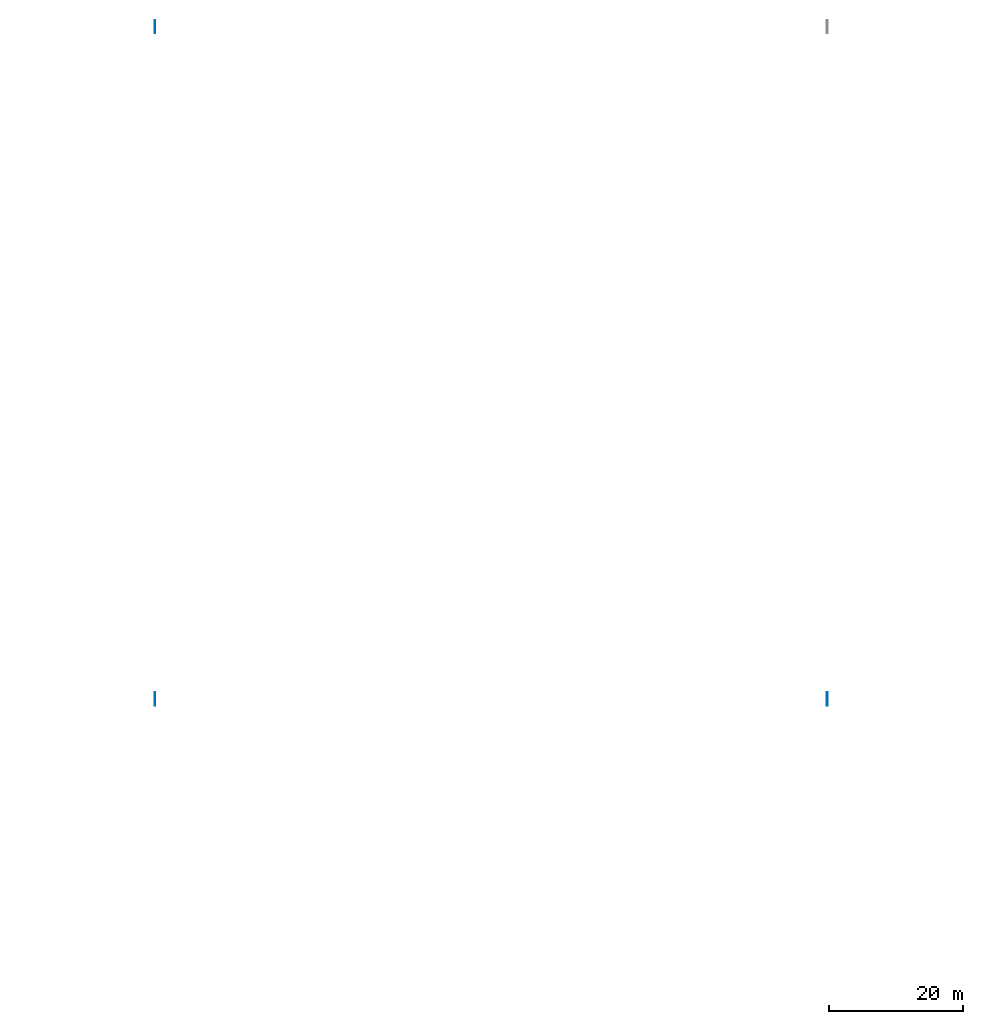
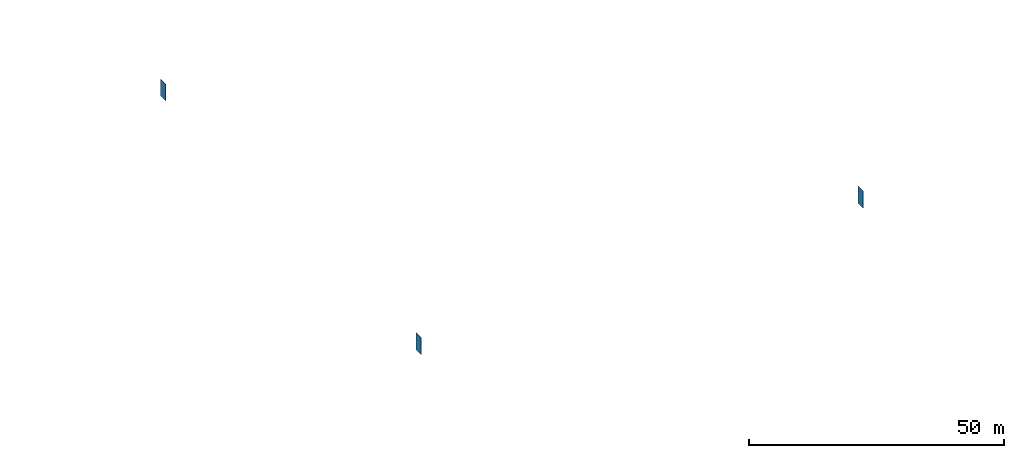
# One storey, part 134 of 164: 3 walls.
"""IFC2X3 building model written with IfcOpenShell, lengths in millimetres."""

import ifcopenshell
import ifcopenshell.guid

model = None  # the IFC model being written
_history = None  # IfcOwnerHistory: only IFC2X3 demands one
_inside = {}  # id of a spatial element -> (the spatial element, [elements in it])
_under = {}  # id of a project, library or spatial element -> (it, [spatial elements below it])
_declared = {}  # id of a project -> (the project, [libraries it declares])
_typed = {}  # id of a type object -> (the type object, [elements of that type])
_made_of = {}  # id of a material, layer set ... -> (it, [elements and type objects made of it])


def new_model(schema):
    """Start an empty IFC model of exactly this schema.

    Asked for "IFC4X3", IfcOpenShell would pick the latest addendum, in which some entities
    have other attributes; the version numbers below select the first issue.
    IFC2X3 requires an IfcOwnerHistory on every rooted entity: one is made here for all.
    """
    global model, _history
    if schema == "IFC4X3":
        model = ifcopenshell.file(schema_version=(4, 3, 0, 0))
    else:
        model = ifcopenshell.file(schema=schema)
    _inside.clear()
    _under.clear()
    _declared.clear()
    _typed.clear()
    _made_of.clear()
    _history = None
    if model.schema == "IFC2X3":
        org = make("IfcOrganization", Name="unknown")
        user = make(
            "IfcPersonAndOrganization",
            ThePerson=make("IfcPerson", FamilyName="unknown"),
            TheOrganization=org,
        )
        app = make(
            "IfcApplication",
            ApplicationDeveloper=org,
            Version="unknown",
            ApplicationFullName="unknown",
            ApplicationIdentifier="unknown",
        )
        _history = make(
            "IfcOwnerHistory",
            OwningUser=user,
            OwningApplication=app,
            ChangeAction="ADDED",
            CreationDate=0,
        )
    return model


def make(cls, **values):
    """One entity of the class cls with the attributes given. An attribute that is None is left unset."""
    return model.create_entity(
        cls, **{name: value for name, value in values.items() if value is not None}
    )


def entity(cls, *values):
    """Any entity or typed value of the class cls, its attributes in the order of the schema. None: left unset."""
    e = model.create_entity(cls)
    for i, value in enumerate(values):
        if value is not None:
            e[i] = value
    return e


def rooted(cls, **values):
    """An entity with a GlobalId (a new one), such as an element, a storey or a relation."""
    return make(cls, GlobalId=ifcopenshell.guid.new(), OwnerHistory=_history, **values)


def si_unit(unit_type, name, prefix=None):
    """IfcSIUnit, for example si_unit("LENGTHUNIT", "METRE", prefix="MILLI")."""
    return make("IfcSIUnit", UnitType=unit_type, Prefix=prefix, Name=name)


def converted_unit(unit_type, name, factor, base, dimensions=None, offset=None):
    """IfcConversionBasedUnit, such as the inch: factor (a typed value) times the base unit."""
    return make(
        "IfcConversionBasedUnit"
        if offset is None
        else "IfcConversionBasedUnitWithOffset",
        ConversionOffset=offset,
        Dimensions=None
        if dimensions is None
        else entity("IfcDimensionalExponents", *dimensions),
        UnitType=unit_type,
        Name=name,
        ConversionFactor=make(
            "IfcMeasureWithUnit", ValueComponent=factor, UnitComponent=base
        ),
    )


def derived_unit(unit_type, elements):
    """IfcDerivedUnit: a product of units, each with its exponent."""
    return make(
        "IfcDerivedUnit",
        Elements=[
            make("IfcDerivedUnitElement", Unit=unit, Exponent=power)
            for unit, power in elements
        ],
        UnitType=unit_type,
    )


def assignment(units):
    """IfcUnitAssignment: the units of a project."""
    return None if units is None else make("IfcUnitAssignment", Units=units)


def point(xyz):
    """IfcCartesianPoint."""
    return None if xyz is None else make("IfcCartesianPoint", Coordinates=xyz)


def direction(xyz):
    """IfcDirection."""
    return None if xyz is None else make("IfcDirection", DirectionRatios=xyz)


def frame(location, z_axis=None, x_axis=None):
    """IfcAxis2Placement3D, a coordinate frame: its origin and axes. An axis left out is left unset."""
    return make(
        "IfcAxis2Placement3D",
        Location=point(location),
        Axis=direction(z_axis),
        RefDirection=direction(x_axis),
    )


def frame_2d(location, x_axis=None):
    """IfcAxis2Placement2D, a coordinate frame in the plane: its origin and x axis."""
    return make(
        "IfcAxis2Placement2D", Location=point(location), RefDirection=direction(x_axis)
    )


def origin():
    """The frame at (0, 0, 0) with its axes left unset."""
    return frame((0.0, 0.0, 0.0))


def place(relative_to, where):
    """IfcLocalPlacement: puts the frame where relative to a parent placement (None: the world)."""
    return make(
        "IfcLocalPlacement", PlacementRelTo=relative_to, RelativePlacement=where
    )


def context(
    kind, dimensions, precision=None, world=None, true_north=None, identifier=None
):
    """IfcGeometricRepresentationContext, for example the 3D "Model" context."""
    return make(
        "IfcGeometricRepresentationContext",
        ContextIdentifier=identifier,
        ContextType=kind,
        CoordinateSpaceDimension=dimensions,
        Precision=precision,
        WorldCoordinateSystem=world,
        TrueNorth=true_north,
    )


def subcontext(parent, identifier, kind, view, scale=None):
    """IfcGeometricRepresentationSubContext, for example "Body" below "Model"."""
    return make(
        "IfcGeometricRepresentationSubContext",
        ContextIdentifier=identifier,
        ContextType=kind,
        ParentContext=parent,
        TargetScale=scale,
        TargetView=view,
    )


def project(units=None, contexts=None):
    """IfcProject with its units and contexts."""
    return rooted(
        "IfcProject",
        Name="project",
        RepresentationContexts=contexts,
        UnitsInContext=assignment(units),
    )


def spatial(cls, under=None, at=None, **own):
    """A site, building, storey or space (cls), placed at a placement, below another one or the project."""
    s = rooted(cls, ObjectPlacement=at, **own)
    if under is not None:
        _under.setdefault(under.id(), (under, []))[1].append(s)
    return s


def profile(cls, at=None, kind="AREA", **sizes):
    """A parametric profile (cls). Its sizes go by their IFC names, for example OverallWidth=200.0."""
    return make(cls, ProfileType=kind, Position=at, **sizes)


def rectangle(**sizes):
    """IfcRectangleProfileDef."""
    return profile("IfcRectangleProfileDef", **sizes)


def extrude(swept, where, along, depth):
    """IfcExtrudedAreaSolid: the profile swept, set in the frame where, extruded along a direction by depth."""
    return make(
        "IfcExtrudedAreaSolid",
        SweptArea=swept,
        Position=where,
        ExtrudedDirection=direction(along),
        Depth=depth,
    )


def shape(context_of_items, identifier, shape_type, items):
    """IfcShapeRepresentation: the items that make up one representation, for example the "Body"."""
    return make(
        "IfcShapeRepresentation",
        ContextOfItems=context_of_items,
        RepresentationIdentifier=identifier,
        RepresentationType=shape_type,
        Items=items,
    )


def material(Name=None, Category=None):
    """IfcMaterial."""
    return make("IfcMaterial", Name=Name, Category=Category)


def layer(
    of_material, thickness, ventilated=None, Name=None, Category=None, Priority=None
):
    """IfcMaterialLayer: one layer of a wall or slab, of a material (None: an air gap)."""
    return make(
        "IfcMaterialLayer",
        Material=of_material,
        LayerThickness=thickness,
        IsVentilated=ventilated,
        Name=Name,
        Category=Category,
        Priority=Priority,
    )


def layer_set(layers, Name=None):
    """IfcMaterialLayerSet."""
    return make("IfcMaterialLayerSet", MaterialLayers=layers, LayerSetName=Name)


def layer_usage(for_layer_set, set_direction, sense, offset, extent=None):
    """IfcMaterialLayerSetUsage: how a layer set lies in its element."""
    return make(
        "IfcMaterialLayerSetUsage",
        ForLayerSet=for_layer_set,
        LayerSetDirection=set_direction,
        DirectionSense=sense,
        OffsetFromReferenceLine=offset,
        ReferenceExtent=extent,
    )


def made_of(thing, what):
    """Note that an element or type object is made of a material, layer set ...; save() writes the relation."""
    if what is not None:
        _made_of.setdefault(what.id(), (what, []))[1].append(thing)
    return thing


def type_object(cls, material=None, **own):
    """A type object (cls), such as IfcWallType, which elements share."""
    return made_of(rooted(cls, **own), material)


def element(
    cls,
    number,
    at=None,
    inside=None,
    cuts=None,
    type_object=None,
    material=None,
    context=None,
    identifier="Body",
    shape_type=None,
    held_by="IfcProductDefinitionShape",
    body=None,
    shapes=None,
    **own,
):
    """One element of the class cls, such as IfcWall. Its Tag is "e" and its number.

    at: its placement. inside: the storey or other place that contains it. cuts: it is an
    opening in that element (IfcRelVoidsElement). A single representation is given by context,
    identifier, shape_type and body (its items); several are given by shapes. held_by: the class
    of the entity that holds the representations. save() writes the other relations.
    """
    e = rooted(cls, Tag="e%d" % number, ObjectPlacement=at, **own)
    if body is not None:
        shapes = [shape(context, identifier, shape_type, body)]
    if shapes is not None:
        e.Representation = make(held_by, Representations=shapes)
    if inside is not None:
        _inside.setdefault(inside.id(), (inside, []))[1].append(e)
    if cuts is not None:
        rooted(
            "IfcRelVoidsElement", RelatingBuildingElement=cuts, RelatedOpeningElement=e
        )
    if type_object is not None:
        _typed.setdefault(type_object.id(), (type_object, []))[1].append(e)
    return made_of(e, material)


def aggregate(whole, parts):
    """IfcRelAggregates: a whole, such as a stair, and the parts it consists of."""
    return rooted("IfcRelAggregates", RelatingObject=whole, RelatedObjects=parts)


def save(model, path):
    """Write the relations noted so far, then the file.

    IfcRelAggregates (storeys below a building ...), IfcRelContainedInSpatialStructure (elements
    in a storey), IfcRelDefinesByType, IfcRelAssociatesMaterial and IfcRelDeclares: one each for
    every whole, place, type object, material and project.
    """
    for whole, parts in _under.values():
        aggregate(whole, parts)
    for where, things in _inside.values():
        rooted(
            "IfcRelContainedInSpatialStructure",
            RelatedElements=things,
            RelatingStructure=where,
        )
    for kind, things in _typed.values():
        rooted("IfcRelDefinesByType", RelatedObjects=things, RelatingType=kind)
    for what, things in _made_of.values():
        rooted("IfcRelAssociatesMaterial", RelatedObjects=things, RelatingMaterial=what)
    for by, libraries in _declared.values():
        rooted("IfcRelDeclares", RelatingContext=by, RelatedDefinitions=libraries)
    model.write(path)


model = new_model("IFC2X3")

# Units and contexts
model_context = context("Model", 3, precision=0.01, world=origin(), true_north=direction((6.12303176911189e-17, 1.0)))
body_context = subcontext(model_context, "Body", "Model", "MODEL_VIEW")
ifc_project = project(units=[si_unit("LENGTHUNIT", "METRE", prefix="MILLI"), si_unit("AREAUNIT", "SQUARE_METRE"), si_unit("VOLUMEUNIT", "CUBIC_METRE"), converted_unit("PLANEANGLEUNIT", "DEGREE", entity("IfcRatioMeasure", 0.0174532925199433), si_unit("PLANEANGLEUNIT", "RADIAN"), dimensions=[0, 0, 0, 0, 0, 0, 0]), si_unit("MASSUNIT", "GRAM", prefix="KILO"), derived_unit("MASSDENSITYUNIT", [(si_unit("MASSUNIT", "GRAM", prefix="KILO"), 1), (si_unit("LENGTHUNIT", "METRE"), -3)]), derived_unit("MOMENTOFINERTIAUNIT", [(si_unit("LENGTHUNIT", "METRE"), 4)]), si_unit("TIMEUNIT", "SECOND"), si_unit("FREQUENCYUNIT", "HERTZ"), si_unit("THERMODYNAMICTEMPERATUREUNIT", "DEGREE_CELSIUS"), derived_unit("THERMALTRANSMITTANCEUNIT", [(si_unit("MASSUNIT", "GRAM", prefix="KILO"), 1), (si_unit("THERMODYNAMICTEMPERATUREUNIT", "KELVIN"), -1), (si_unit("TIMEUNIT", "SECOND"), -3)]), derived_unit("VOLUMETRICFLOWRATEUNIT", [(si_unit("LENGTHUNIT", "METRE"), 3), (si_unit("TIMEUNIT", "SECOND"), -1)]), si_unit("ELECTRICCURRENTUNIT", "AMPERE"), si_unit("ELECTRICVOLTAGEUNIT", "VOLT"), si_unit("POWERUNIT", "WATT"), si_unit("FORCEUNIT", "NEWTON", prefix="KILO"), si_unit("ILLUMINANCEUNIT", "LUX"), si_unit("LUMINOUSFLUXUNIT", "LUMEN"), si_unit("LUMINOUSINTENSITYUNIT", "CANDELA"), derived_unit("USERDEFINED", [(si_unit("MASSUNIT", "GRAM", prefix="KILO"), -1), (si_unit("LENGTHUNIT", "METRE"), -2), (si_unit("TIMEUNIT", "SECOND"), 3), (si_unit("LUMINOUSFLUXUNIT", "LUMEN"), 1)]), derived_unit("LINEARVELOCITYUNIT", [(si_unit("LENGTHUNIT", "METRE"), 1), (si_unit("TIMEUNIT", "SECOND"), -1)]), si_unit("PRESSUREUNIT", "PASCAL"), derived_unit("USERDEFINED", [(si_unit("LENGTHUNIT", "METRE"), -2), (si_unit("MASSUNIT", "GRAM", prefix="KILO"), 1), (si_unit("TIMEUNIT", "SECOND"), -2)]), derived_unit("LINEARFORCEUNIT", [(si_unit("MASSUNIT", "GRAM", prefix="KILO"), 1), (si_unit("LENGTHUNIT", "METRE"), 1), (si_unit("TIMEUNIT", "SECOND"), -2), (si_unit("LENGTHUNIT", "METRE"), -1)]), derived_unit("PLANARFORCEUNIT", [(si_unit("MASSUNIT", "GRAM", prefix="KILO"), 1), (si_unit("LENGTHUNIT", "METRE"), 1), (si_unit("TIMEUNIT", "SECOND"), -2), (si_unit("LENGTHUNIT", "METRE"), -2)])], contexts=[model_context])

# Site, building, storey
site_placement = place(None, origin())
site = spatial("IfcSite", under=ifc_project, at=site_placement, Name="Default", CompositionType="ELEMENT")
building_placement = place(site_placement, origin())
building = spatial("IfcBuilding", under=site, at=building_placement, CompositionType="ELEMENT")
storey_placement = place(building_placement, origin())
storey = spatial("IfcBuildingStorey", under=building, at=storey_placement, Name="Level 1", CompositionType="ELEMENT", Elevation=0.0)

# Walls
ifc_material = material(Name="Default Wall")
ifc_layer = layer(ifc_material, 100.0)
ifc_layer_set = layer_set([ifc_layer], Name="Basic Wall:Generic - 100mm")
ifc_layer_usage_1 = layer_usage(ifc_layer_set, "AXIS2", "NEGATIVE", 50.0)
wall_type = type_object("IfcWallType", Name="Basic Wall:Generic - 100mm", PredefinedType="STANDARD", material=ifc_layer_set)
wall_1_placement = place(storey_placement, frame((800050.0, 1801000.0, 0.0), z_axis=(0.0, 0.0, 1.0), x_axis=(0.0, -1.0, 0.0)))
element("IfcWallStandardCase", 1, at=wall_1_placement, inside=storey, type_object=wall_type, material=ifc_layer_usage_1, Name="Basic Wall:Generic - 100mm", ObjectType="Basic Wall:Generic - 100mm", context=body_context, shape_type="SweptSolid", body=[
    extrude(rectangle(XDim=1999.99999999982, YDim=100.000000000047, at=frame_2d((999.999999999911, 1.60582658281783e-12), x_axis=(-1.0, 0.0))), origin(), (0.0, 0.0, 1.0), 4000.0),
])
ifc_layer_usage_2 = layer_usage(ifc_layer_set, "AXIS2", "NEGATIVE", 50.0)
wall_2_placement = place(storey_placement, frame((900050.0, 1801000.0, 0.0), z_axis=(0.0, 0.0, 1.0), x_axis=(0.0, -1.0, 0.0)))
element("IfcWallStandardCase", 2, at=wall_2_placement, inside=storey, type_object=wall_type, material=ifc_layer_usage_2, Name="Basic Wall:Generic - 100mm", ObjectType="Basic Wall:Generic - 100mm", context=body_context, shape_type="SweptSolid", body=[
    extrude(rectangle(XDim=1999.99999999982, YDim=100.000000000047, at=frame_2d((999.999999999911, 1.60582658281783e-12), x_axis=(-1.0, 0.0))), origin(), (0.0, 0.0, 1.0), 4000.0),
])
ifc_layer_usage_3 = layer_usage(ifc_layer_set, "AXIS2", "NEGATIVE", 50.0)
wall_3_placement = place(storey_placement, frame((800050.0, 1901000.0, 0.0), z_axis=(0.0, 0.0, 1.0), x_axis=(0.0, -1.0, 0.0)))
element("IfcWallStandardCase", 3, at=wall_3_placement, inside=storey, type_object=wall_type, material=ifc_layer_usage_3, Name="Basic Wall:Generic - 100mm", ObjectType="Basic Wall:Generic - 100mm", context=body_context, shape_type="SweptSolid", body=[
    extrude(rectangle(XDim=1999.99999999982, YDim=100.000000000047, at=frame_2d((999.999999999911, 1.60582658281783e-12), x_axis=(-1.0, 0.0))), origin(), (0.0, 0.0, 1.0), 4000.0),
])

save(model, "model.ifc")
